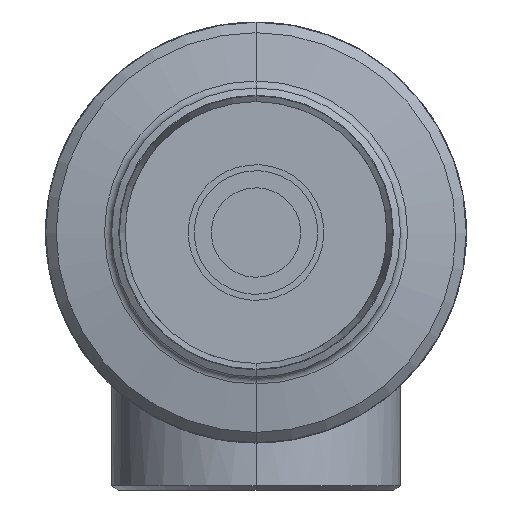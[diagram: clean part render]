
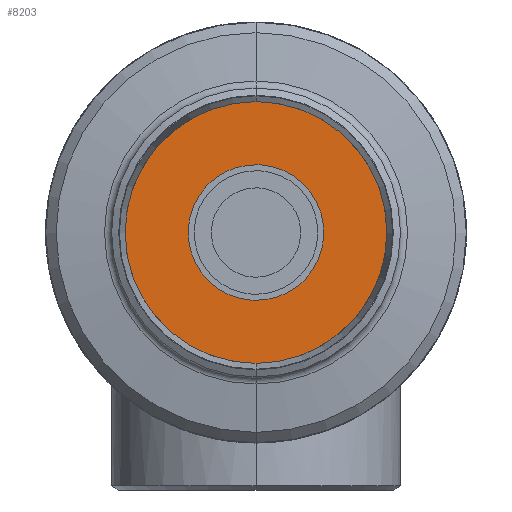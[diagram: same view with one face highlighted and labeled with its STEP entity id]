
A CAD part, front view. The second image highlights one B-rep face of the part: STEP entity #8203.
In plain terms, the highlighted planar face has unit normal (0, -1, 0) as drawn and (0, 0, 1) by its records, which use the part's own axes.
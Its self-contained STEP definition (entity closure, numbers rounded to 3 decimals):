
#943 = CARTESIAN_POINT ( 'NONE',  ( -85., 0., 16. ) ) ;
#1120 = CARTESIAN_POINT ( 'NONE',  ( 85., 0., 16. ) ) ;
#1187 = CIRCLE ( 'NONE', #1188, 85. ) ;
#1188 = AXIS2_PLACEMENT_3D ( 'NONE', #1189, #1190, #1191 ) ;
#1189 = CARTESIAN_POINT ( 'NONE',  ( 0., 0., 16. ) ) ;
#1190 = DIRECTION ( 'NONE',  ( 0., 0., 1. ) ) ;
#1191 = DIRECTION ( 'NONE',  ( 1., 0., 0. ) ) ;
#1668 = EDGE_CURVE ( 'NONE', #8788, #8774, #10303, .T. ) ;
#2804 = CARTESIAN_POINT ( 'NONE',  ( 39.5, 0., 16. ) ) ;
#4137 = EDGE_LOOP ( 'NONE', ( #12462, #12082 ) ) ;
#6428 = ORIENTED_EDGE ( 'NONE', *, *, #1668, .T. ) ;
#7452 = ORIENTED_EDGE ( 'NONE', *, *, #8274, .T. ) ;
#7720 = CIRCLE ( 'NONE', #7721, 39.5 ) ;
#7721 = AXIS2_PLACEMENT_3D ( 'NONE', #7727, #7728, #7729 ) ;
#7722 = EDGE_CURVE ( 'NONE', #8880, #11864, #7720, .T. ) ;
#7727 = CARTESIAN_POINT ( 'NONE',  ( 0., 0., 16. ) ) ;
#7728 = DIRECTION ( 'NONE',  ( 0., 0., 1. ) ) ;
#7729 = DIRECTION ( 'NONE',  ( 1., 0., 0. ) ) ;
#7962 = EDGE_LOOP ( 'NONE', ( #7452, #6428 ) ) ;
#8203 = ADVANCED_FACE ( 'NONE', ( #12574, #12575 ), #12576, .T. ) ;
#8274 = EDGE_CURVE ( 'NONE', #8774, #8788, #1187, .T. ) ;
#8509 = EDGE_CURVE ( 'NONE', #11864, #8880, #10225, .T. ) ;
#8774 = VERTEX_POINT ( 'NONE', #943 ) ;
#8788 = VERTEX_POINT ( 'NONE', #1120 ) ;
#8880 = VERTEX_POINT ( 'NONE', #2804 ) ;
#10225 = CIRCLE ( 'NONE', #10226, 39.5 ) ;
#10226 = AXIS2_PLACEMENT_3D ( 'NONE', #10227, #10228, #10229 ) ;
#10227 = CARTESIAN_POINT ( 'NONE',  ( 0., 0., 16. ) ) ;
#10228 = DIRECTION ( 'NONE',  ( 0., 0., 1. ) ) ;
#10229 = DIRECTION ( 'NONE',  ( 1., 0., 0. ) ) ;
#10303 = CIRCLE ( 'NONE', #10304, 85. ) ;
#10304 = AXIS2_PLACEMENT_3D ( 'NONE', #10305, #10306, #10308 ) ;
#10305 = CARTESIAN_POINT ( 'NONE',  ( 0., 0., 16. ) ) ;
#10306 = DIRECTION ( 'NONE',  ( 0., 0., 1. ) ) ;
#10308 = DIRECTION ( 'NONE',  ( 1., 0., 0. ) ) ;
#11864 = VERTEX_POINT ( 'NONE', #12099 ) ;
#12082 = ORIENTED_EDGE ( 'NONE', *, *, #7722, .F. ) ;
#12099 = CARTESIAN_POINT ( 'NONE',  ( -39.5, 0., 16. ) ) ;
#12462 = ORIENTED_EDGE ( 'NONE', *, *, #8509, .F. ) ;
#12574 = FACE_OUTER_BOUND ( 'NONE', #7962, .T. ) ;
#12575 = FACE_BOUND ( 'NONE', #4137, .T. ) ;
#12576 = PLANE ( 'NONE',  #12577 ) ;
#12577 = AXIS2_PLACEMENT_3D ( 'NONE', #12578, #12579, #12580 ) ;
#12578 = CARTESIAN_POINT ( 'NONE',  ( 0., 0., 16. ) ) ;
#12579 = DIRECTION ( 'NONE',  ( 0., 0., 1. ) ) ;
#12580 = DIRECTION ( 'NONE',  ( 1., 0., 0. ) ) ;
